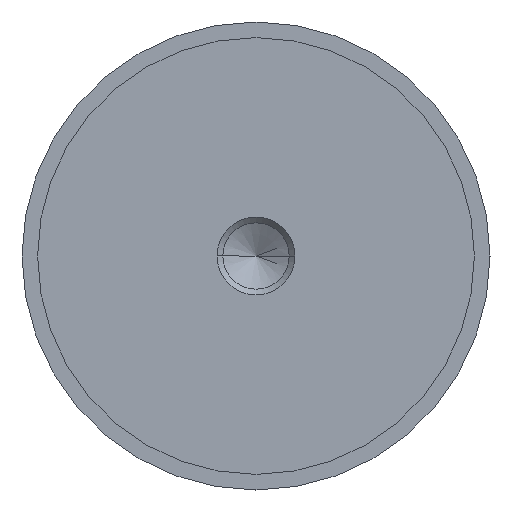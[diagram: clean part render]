
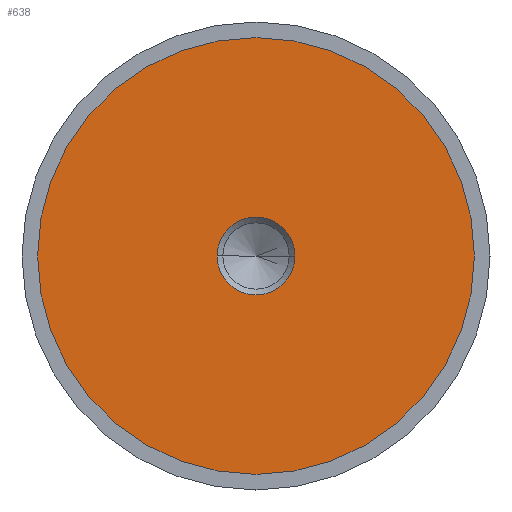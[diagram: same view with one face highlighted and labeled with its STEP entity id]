
A CAD part, left-side view. The second image highlights one B-rep face of the part: STEP entity #638.
In plain terms, the highlighted planar face has unit normal (-1, 0, 0).
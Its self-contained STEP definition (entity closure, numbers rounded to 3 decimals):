
#1 = VERTEX_POINT ( 'NONE', #257 ) ;
#38 = CIRCLE ( 'NONE', #530, 4.99 ) ;
#45 = VERTEX_POINT ( 'NONE', #136 ) ;
#74 = CARTESIAN_POINT ( 'NONE',  ( -19.99, 4.99, 0. ) ) ;
#119 = DIRECTION ( 'NONE',  ( -1., 0., 0. ) ) ;
#136 = CARTESIAN_POINT ( 'NONE',  ( -19.99, 0., 28. ) ) ;
#137 = CARTESIAN_POINT ( 'NONE',  ( -19.99, 0., 0. ) ) ;
#188 = EDGE_LOOP ( 'NONE', ( #588, #745 ) ) ;
#247 = EDGE_CURVE ( 'NONE', #674, #45, #331, .T. ) ;
#254 = ORIENTED_EDGE ( 'NONE', *, *, #676, .T. ) ;
#257 = CARTESIAN_POINT ( 'NONE',  ( -19.99, -4.99, 0. ) ) ;
#264 = CARTESIAN_POINT ( 'NONE',  ( -19.99, 0., 0. ) ) ;
#279 = VERTEX_POINT ( 'NONE', #74 ) ;
#287 = DIRECTION ( 'NONE',  ( 0., 0., -1. ) ) ;
#310 = CARTESIAN_POINT ( 'NONE',  ( -19.99, 0., -28. ) ) ;
#314 = CARTESIAN_POINT ( 'NONE',  ( -19.99, 28., 0. ) ) ;
#322 = FACE_BOUND ( 'NONE', #188, .T. ) ;
#326 = EDGE_CURVE ( 'NONE', #279, #1, #38, .T. ) ;
#331 = CIRCLE ( 'NONE', #774, 28. ) ;
#360 = CARTESIAN_POINT ( 'NONE',  ( -19.99, 0., 0. ) ) ;
#377 = DIRECTION ( 'NONE',  ( 1., 0., 0. ) ) ;
#382 = CARTESIAN_POINT ( 'NONE',  ( -19.99, 0., 0. ) ) ;
#387 = AXIS2_PLACEMENT_3D ( 'NONE', #314, #614, #481 ) ;
#477 = AXIS2_PLACEMENT_3D ( 'NONE', #137, #377, #620 ) ;
#478 = FACE_OUTER_BOUND ( 'NONE', #644, .T. ) ;
#481 = DIRECTION ( 'NONE',  ( 0., 0., -1. ) ) ;
#495 = DIRECTION ( 'NONE',  ( 0., 0., 1. ) ) ;
#499 = DIRECTION ( 'NONE',  ( 1., 0., 0. ) ) ;
#507 = DIRECTION ( 'NONE',  ( -1., 0., 0. ) ) ;
#530 = AXIS2_PLACEMENT_3D ( 'NONE', #264, #499, #287 ) ;
#531 = AXIS2_PLACEMENT_3D ( 'NONE', #382, #507, #636 ) ;
#555 = PLANE ( 'NONE',  #387 ) ;
#569 = CIRCLE ( 'NONE', #477, 4.99 ) ;
#588 = ORIENTED_EDGE ( 'NONE', *, *, #656, .T. ) ;
#594 = ORIENTED_EDGE ( 'NONE', *, *, #247, .T. ) ;
#614 = DIRECTION ( 'NONE',  ( 1., 0., 0. ) ) ;
#620 = DIRECTION ( 'NONE',  ( 0., 0., -1. ) ) ;
#636 = DIRECTION ( 'NONE',  ( 0., 0., 1. ) ) ;
#638 = ADVANCED_FACE ( 'NONE', ( #322, #478 ), #555, .F. ) ;
#644 = EDGE_LOOP ( 'NONE', ( #254, #594 ) ) ;
#656 = EDGE_CURVE ( 'NONE', #1, #279, #569, .T. ) ;
#674 = VERTEX_POINT ( 'NONE', #310 ) ;
#676 = EDGE_CURVE ( 'NONE', #45, #674, #766, .T. ) ;
#745 = ORIENTED_EDGE ( 'NONE', *, *, #326, .T. ) ;
#766 = CIRCLE ( 'NONE', #531, 28. ) ;
#774 = AXIS2_PLACEMENT_3D ( 'NONE', #360, #119, #495 ) ;
